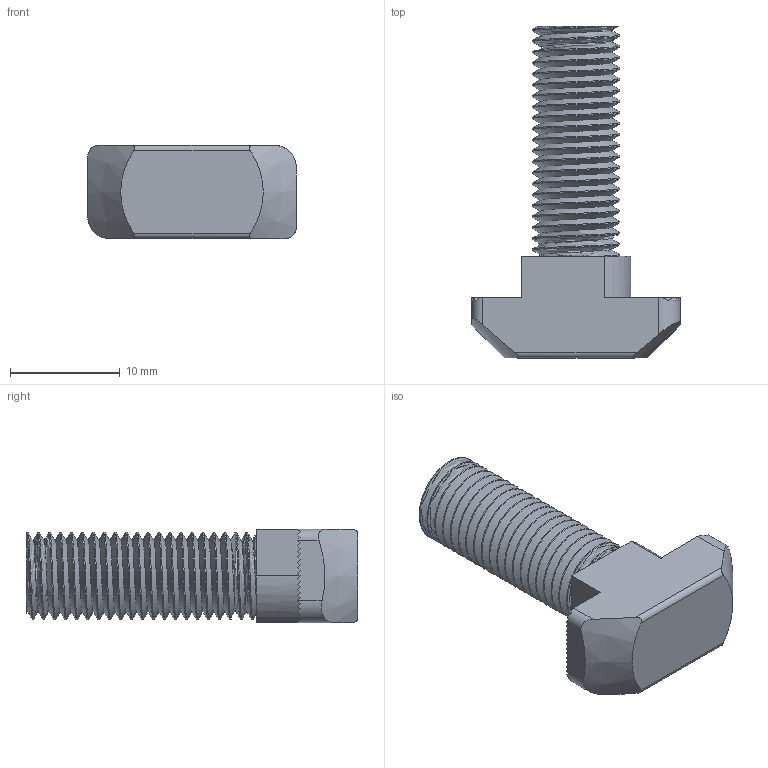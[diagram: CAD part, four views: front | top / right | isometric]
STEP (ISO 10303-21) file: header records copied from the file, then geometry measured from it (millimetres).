
FILE_DESCRIPTION (( 'STEP AP203' ), '1' );
FILE_NAME ('114-CE-TS-45.STEP', '2015-07-09T08:45:38', ( '' ), ( '' ), 'SwSTEP 2.0', 'SolidWorks 2013', '' );
FILE_SCHEMA (( 'CONFIG_CONTROL_DESIGN' ));
Length unit declared in the file: millimetre
Products named in the file (1): 114-CE-TS-45
Bounding box: 19 x 30.25 x 8.5 mm (x, y, z)
Volume: 1954.7 mm3; surface area: 1617.7 mm2
Topology: 1 solids, 1 shells, 132 faces, 383 edges, 254 vertices
Faces by surface type: plane 77, cylinder 51, cone 2, bspline 2
Entity records: 6721 total; most frequent: CARTESIAN_POINT 3635, ORIENTED_EDGE 766, DIRECTION 487, EDGE_CURVE 383, VERTEX_POINT 254, LINE 213, VECTOR 213, AXIS2_PLACEMENT_3D 137
